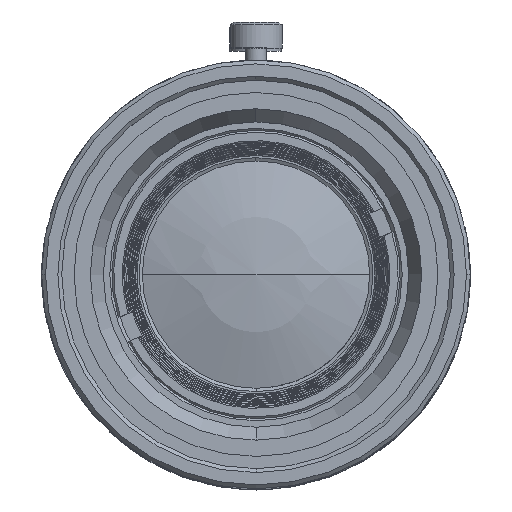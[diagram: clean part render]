
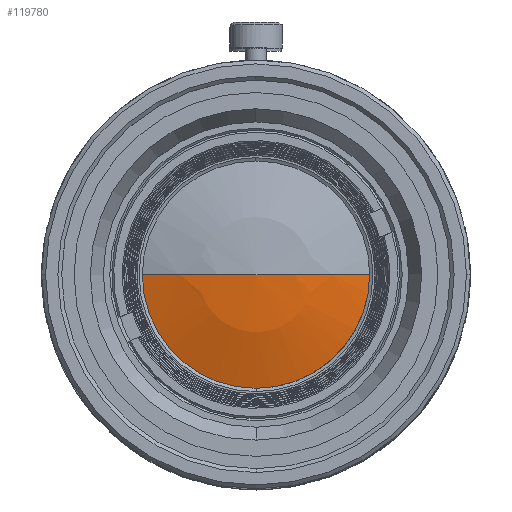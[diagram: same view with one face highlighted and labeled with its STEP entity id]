
A CAD part, top view. The second image highlights one B-rep face of the part: STEP entity #119780.
In plain terms, the highlighted spherical face has radius 27.175 mm.
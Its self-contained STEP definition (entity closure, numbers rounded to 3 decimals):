
#119410=CARTESIAN_POINT('',(0.,0.,
-16.043));
#119420=DIRECTION('',(0.,0.,1.));
#119430=DIRECTION('',(1.,0.,0.));
#119440=AXIS2_PLACEMENT_3D('',#119410,#119420,#119430);
#119450=SPHERICAL_SURFACE('',#119440,27.175);
#119460=CARTESIAN_POINT('',(0.,0.,
-41.771));
#119470=DIRECTION('',(0.,0.,-1.));
#119480=DIRECTION('',(0.,1.,0.));
#119490=AXIS2_PLACEMENT_3D('',#119460,#119470,#119480);
#119500=CIRCLE('',#119490,8.75);
#119510=CARTESIAN_POINT('',(8.75,0.,
-41.771));
#119520=VERTEX_POINT('',#119510);
#119530=CARTESIAN_POINT('',(0.,-8.75,
-41.771));
#119540=VERTEX_POINT('',#119530);
#119550=EDGE_CURVE('',#119520,#119540,#119500,.T.);
#119560=ORIENTED_EDGE('',*,*,#119550,.T.);
#119570=CARTESIAN_POINT('',(0.,0.,
-16.043));
#119580=DIRECTION('',(0.,1.,0.));
#119590=DIRECTION('',(1.,0.,0.));
#119600=AXIS2_PLACEMENT_3D('',#119570,#119580,#119590);
#119610=CIRCLE('',#119600,27.175);
#119620=CARTESIAN_POINT('',(0.,0.,
-43.218));
#119630=VERTEX_POINT('',#119620);
#119640=EDGE_CURVE('',#119520,#119630,#119610,.T.);
#119650=ORIENTED_EDGE('',*,*,#119640,.F.);
#119660=CARTESIAN_POINT('',(-8.75,0.,
-41.771));
#119670=VERTEX_POINT('',#119660);
#119680=EDGE_CURVE('',#119630,#119670,#119610,.T.);
#119690=ORIENTED_EDGE('',*,*,#119680,.F.);
#119700=CARTESIAN_POINT('',(-3.346,-8.085,
-41.771));
#119710=VERTEX_POINT('',#119700);
#119720=EDGE_CURVE('',#119710,#119670,#119500,.T.);
#119730=ORIENTED_EDGE('',*,*,#119720,.T.);
#119740=EDGE_CURVE('',#119540,#119710,#119500,.T.);
#119750=ORIENTED_EDGE('',*,*,#119740,.T.);
#119760=EDGE_LOOP('',(#119750,#119730,#119690,#119650,#119560));
#119770=FACE_OUTER_BOUND('',#119760,.T.);
#119780=ADVANCED_FACE('',(#119770),#119450,.T.);
